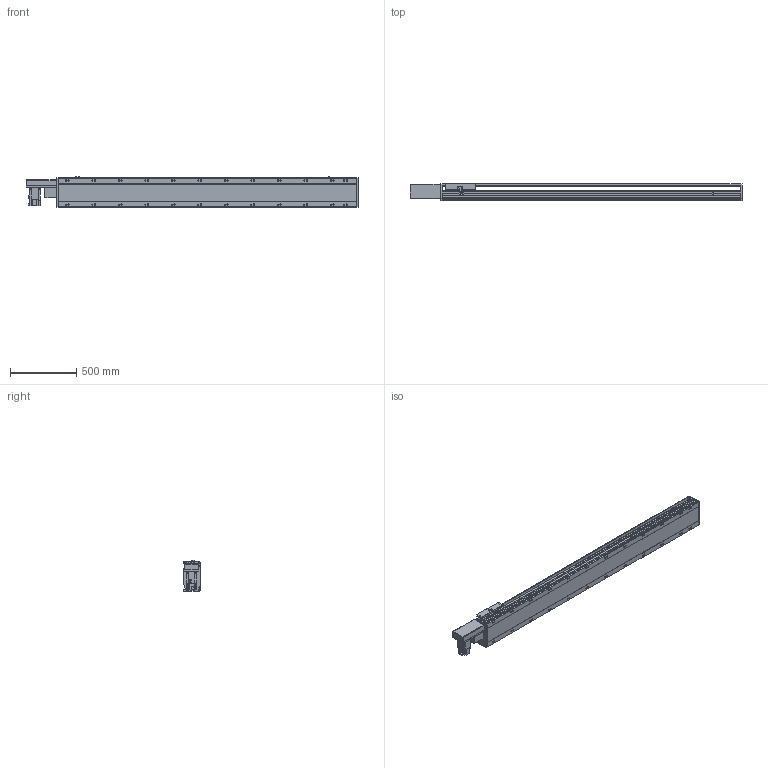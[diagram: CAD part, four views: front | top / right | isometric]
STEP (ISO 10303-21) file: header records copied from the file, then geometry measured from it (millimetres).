
FILE_DESCRIPTION(/* description */ ('STEP AP214'),/* implementation_level */ '2;1');
FILE_NAME(/* name */ 'PBS220-P40-S1900-R-T75-C1-N(0)',/* time_stamp */ '2022-06-11T10:02:08+02:00',/* author */ ('License CC BY-ND 4.0'),/* organization */ ('CADENAS'),/* preprocessor_version */ 'ST-DEVELOPER v18.102',/* originating_system */ 'PARTsolutions',/* authorisation */ ' ');
FILE_SCHEMA (('AUTOMOTIVE_DESIGN {1 0 10303 214 3 1 1}'));
Length unit declared in the file: millimetre
Products named in the file (7): PBS220-P40-S1900-R-T75-C1-N(0); PBS220_sensor; PBS220_plant; PBS220_sliser; T75-p1; PBS220T-R_motors; PBS220-S1900()_body
Assembly tree (8 placements, depth 2):
  PBS220-P40-S1900-R-T75-C1-N(0)
    PBS220_sensor  x3
    PBS220_plant
    PBS220_sliser
    T75-p1
    PBS220T-R_motors
    PBS220-S1900()_body
Bounding box: 2506 x 134 x 238.5 mm (x, y, z)
Volume: 33575840.6 mm3; surface area: 3132459.2 mm2
Topology: 8 solids, 8 shells, 962 faces, 2508 edges, 1630 vertices
Faces by surface type: plane 614, cylinder 300, cone 48
Full cylindrical faces by diameter (mm): 2.013 x4, 4.5 x14, 4.917 x4, 6 x7, 6.647 x8, 8 x10, 8.376 x24, 8.5 x24, 10 x6, 14 x24, 38 x2, 40 x1, 70 x1
Entity records: 26877 total; most frequent: CARTESIAN_POINT 4756, DIRECTION 4671, ORIENTED_EDGE 4250, EDGE_CURVE 2125, AXIS2_PLACEMENT_3D 1659, VERTEX_POINT 1480, LINE 1353, VECTOR 1353
